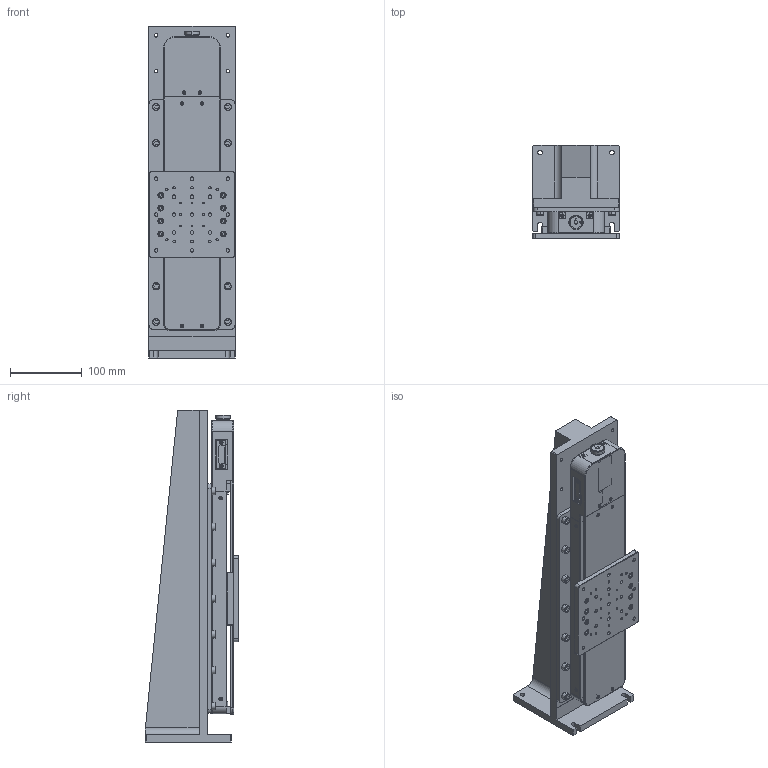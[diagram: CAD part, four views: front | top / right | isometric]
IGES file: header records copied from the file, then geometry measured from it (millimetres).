
Global section: file name: No Iges File Name specified; native system: AutoDesk Inventor R12.0; preprocessor: AutoDesk Inventor Iges Exporter R12.0; date: 20140325.094205; units: millimetre
Bounding box: 120 x 130 x 463 mm (x, y, z)
Volume: 2437140.6 mm3; surface area: 582785.4 mm2
Topology: 3 solids, 86 shells, 3071 faces, 7640 edges, 4829 vertices
Faces by surface type: plane 1558, bspline 681, cylinder 442, cone 235, revolution 132, torus 22, sphere 1
Full cylindrical faces by diameter (mm): 12 x1
